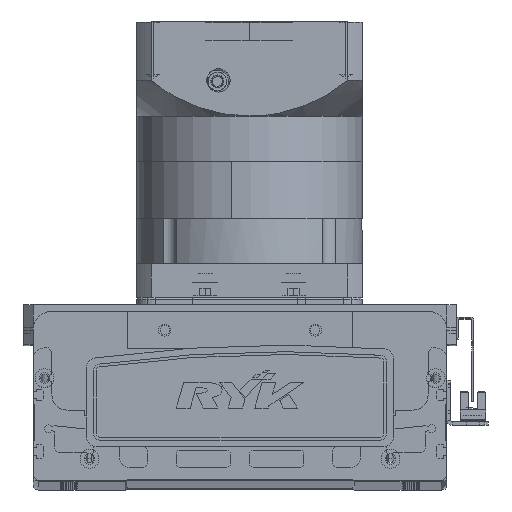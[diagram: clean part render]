
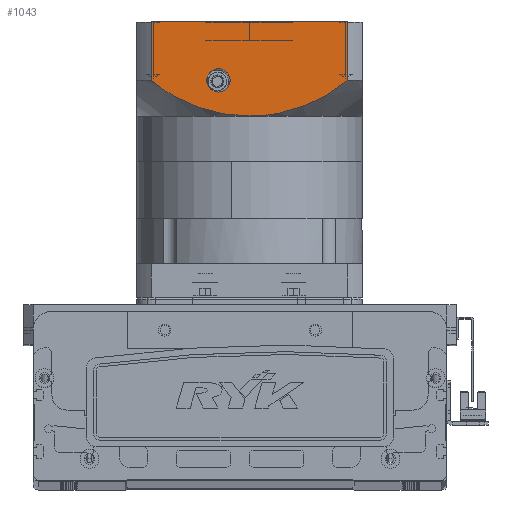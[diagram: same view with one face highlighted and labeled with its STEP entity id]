
A CAD part, top view. The second image highlights one B-rep face of the part: STEP entity #1043.
In plain terms, the highlighted planar face has unit normal (0, 0, 1) as drawn and (0, -1, 0) by its records, which use the part's own axes.
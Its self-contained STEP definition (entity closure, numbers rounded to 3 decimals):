
#1043 = ADVANCED_FACE ( 'NONE', ( #7003, #23155 ), #40336, .T. ) ;
#2722 = ORIENTED_EDGE ( 'NONE', *, *, #65860, .F. ) ;
#3418 = CARTESIAN_POINT ( 'NONE',  ( 16.5, -60., -119.5 ) ) ;
#4253 = VECTOR ( 'NONE', #8185, 1000. ) ;
#4276 = CARTESIAN_POINT ( 'NONE',  ( 25.577, -60., -104.596 ) ) ;
#4496 = CARTESIAN_POINT ( 'NONE',  ( -52.156, -60., -119.5 ) ) ;
#5496 = CARTESIAN_POINT ( 'NONE',  ( -52.156, -60., -150.5 ) ) ;
#5782 = LINE ( 'NONE', #58096, #66221 ) ;
#6041 = EDGE_CURVE ( 'NONE', #45468, #47279, #33328, .T. ) ;
#7003 = FACE_OUTER_BOUND ( 'NONE', #25930, .T. ) ;
#8185 = DIRECTION ( 'NONE',  ( 0., 0., 1. ) ) ;
#9010 = CARTESIAN_POINT ( 'NONE',  ( -35.342, -60., -108.587 ) ) ;
#9262 = CARTESIAN_POINT ( 'NONE',  ( 16.426, -60., -102.169 ) ) ;
#9314 = DIRECTION ( 'NONE',  ( 1., 0., 0. ) ) ;
#9933 = CARTESIAN_POINT ( 'NONE',  ( -36.409, -60., -109.113 ) ) ;
#11689 = ORIENTED_EDGE ( 'NONE', *, *, #6041, .F. ) ;
#14488 = CARTESIAN_POINT ( 'NONE',  ( -23.319, -60., -103.777 ) ) ;
#14639 = CARTESIAN_POINT ( 'NONE',  ( 52.156, -60., -119.5 ) ) ;
#14738 = CARTESIAN_POINT ( 'NONE',  ( 18.739, -60., -102.681 ) ) ;
#15195 = CARTESIAN_POINT ( 'NONE',  ( -52.156, -60., -119.5 ) ) ;
#15440 = CARTESIAN_POINT ( 'NONE',  ( 0., -60., -100.5 ) ) ;
#16301 = CARTESIAN_POINT ( 'NONE',  ( 16.5, -60., -119.5 ) ) ;
#18593 = CARTESIAN_POINT ( 'NONE',  ( -60., -60., -150.5 ) ) ;
#19936 = LINE ( 'NONE', #40792, #51457 ) ;
#19972 = CARTESIAN_POINT ( 'NONE',  ( 4.753, -60., -100.5 ) ) ;
#20448 = CARTESIAN_POINT ( 'NONE',  ( 44.553, -60., -113.817 ) ) ;
#20695 = CARTESIAN_POINT ( 'NONE',  ( 50.338, -60., -117.969 ) ) ;
#21776 = CARTESIAN_POINT ( 'NONE',  ( 16.5, -60., -125.75 ) ) ;
#21792 = DIRECTION ( 'NONE',  ( 0., 1., 0. ) ) ;
#21817 = VERTEX_POINT ( 'NONE', #14639 ) ;
#23155 = FACE_BOUND ( 'NONE', #43802, .T. ) ;
#25930 = EDGE_LOOP ( 'NONE', ( #2722, #44363, #49285, #50106, #11689 ) ) ;
#27208 = VERTEX_POINT ( 'NONE', #49974 ) ;
#28956 = B_SPLINE_CURVE_WITH_KNOTS ( 'NONE', 3,
 ( #46885, #19972, #58038, #41923, #9262, #14738, #59430, #64486, #4276, #37155, #48079, #69705, #37631, #20448, #53311, #42395, #20695, #64715 ),
 .UNSPECIFIED., .F., .F.,
 ( 4, 2, 2, 2, 2, 2, 2, 2, 4 ),
 ( 0., 0.014, 0.018, 0.021, 0.028, 0.042, 0.046, 0.05, 0.057 ),
 .UNSPECIFIED. ) ;
#30747 = CIRCLE ( 'NONE', #53305, 6.25 ) ;
#30957 = CARTESIAN_POINT ( 'NONE',  ( -9.477, -60., -101.046 ) ) ;
#31239 = DIRECTION ( 'NONE',  ( 1., 0., 0. ) ) ;
#31605 = ORIENTED_EDGE ( 'NONE', *, *, #39225, .T. ) ;
#31672 = CARTESIAN_POINT ( 'NONE',  ( -38.51, -60., -110.207 ) ) ;
#33328 = B_SPLINE_CURVE_WITH_KNOTS ( 'NONE', 3,
 ( #4496, #42606, #63749, #53521, #31672, #9933, #9010, #69689, #48055, #14488, #36208, #52584, #53294, #30957, #69448, #68730, #58947, #15440 ),
 .UNSPECIFIED., .F., .F.,
 ( 4, 2, 2, 2, 2, 2, 2, 2, 4 ),
 ( 0., 0.014, 0.018, 0.021, 0.028, 0.042, 0.046, 0.05, 0.057 ),
 .UNSPECIFIED. ) ;
#33483 = DIRECTION ( 'NONE',  ( 0., 0., -1. ) ) ;
#34407 = DIRECTION ( 'NONE',  ( 0., 0., 1. ) ) ;
#36208 = CARTESIAN_POINT ( 'NONE',  ( -18.792, -60., -102.562 ) ) ;
#36961 = DIRECTION ( 'NONE',  ( 0., -1., 0. ) ) ;
#37155 = CARTESIAN_POINT ( 'NONE',  ( 32.196, -60., -107.007 ) ) ;
#37351 = AXIS2_PLACEMENT_3D ( 'NONE', #16301, #21792, #33483 ) ;
#37357 = CARTESIAN_POINT ( 'NONE',  ( 0., -60., -100.5 ) ) ;
#37631 = CARTESIAN_POINT ( 'NONE',  ( 42.555, -60., -112.543 ) ) ;
#38027 = VERTEX_POINT ( 'NONE', #5496 ) ;
#39225 = EDGE_CURVE ( 'NONE', #55973, #27208, #61313, .T. ) ;
#40336 = PLANE ( 'NONE',  #69539 ) ;
#40792 = CARTESIAN_POINT ( 'NONE',  ( -52.156, -60., -97.5 ) ) ;
#41717 = EDGE_CURVE ( 'NONE', #38027, #46732, #5782, .T. ) ;
#41923 = CARTESIAN_POINT ( 'NONE',  ( 15.267, -60., -101.938 ) ) ;
#42395 = CARTESIAN_POINT ( 'NONE',  ( 48.457, -60., -116.522 ) ) ;
#42606 = CARTESIAN_POINT ( 'NONE',  ( -48.52, -60., -116.438 ) ) ;
#43802 = EDGE_LOOP ( 'NONE', ( #31605, #49633 ) ) ;
#44363 = ORIENTED_EDGE ( 'NONE', *, *, #41717, .T. ) ;
#45468 = VERTEX_POINT ( 'NONE', #15195 ) ;
#46732 = VERTEX_POINT ( 'NONE', #68420 ) ;
#46885 = CARTESIAN_POINT ( 'NONE',  ( 0., -60., -100.5 ) ) ;
#47279 = VERTEX_POINT ( 'NONE', #37357 ) ;
#48055 = CARTESIAN_POINT ( 'NONE',  ( -29.939, -60., -106.183 ) ) ;
#48079 = CARTESIAN_POINT ( 'NONE',  ( 36.444, -60., -108.986 ) ) ;
#49285 = ORIENTED_EDGE ( 'NONE', *, *, #68663, .T. ) ;
#49633 = ORIENTED_EDGE ( 'NONE', *, *, #60604, .T. ) ;
#49974 = CARTESIAN_POINT ( 'NONE',  ( 16.5, -60., -113.25 ) ) ;
#50106 = ORIENTED_EDGE ( 'NONE', *, *, #55440, .F. ) ;
#50219 = LINE ( 'NONE', #51290, #4253 ) ;
#51290 = CARTESIAN_POINT ( 'NONE',  ( 52.156, -60., -150.5 ) ) ;
#51457 = VECTOR ( 'NONE', #34407, 1000. ) ;
#52584 = CARTESIAN_POINT ( 'NONE',  ( -12.993, -60., -101.537 ) ) ;
#53294 = CARTESIAN_POINT ( 'NONE',  ( -11.825, -60., -101.356 ) ) ;
#53305 = AXIS2_PLACEMENT_3D ( 'NONE', #3418, #68144, #68611 ) ;
#53311 = CARTESIAN_POINT ( 'NONE',  ( 45.542, -60., -114.478 ) ) ;
#53521 = CARTESIAN_POINT ( 'NONE',  ( -39.546, -60., -110.776 ) ) ;
#55440 = EDGE_CURVE ( 'NONE', #47279, #21817, #28956, .T. ) ;
#55973 = VERTEX_POINT ( 'NONE', #21776 ) ;
#58038 = CARTESIAN_POINT ( 'NONE',  ( 9.454, -60., -100.914 ) ) ;
#58096 = CARTESIAN_POINT ( 'NONE',  ( -60., -60., -150.5 ) ) ;
#58947 = CARTESIAN_POINT ( 'NONE',  ( -2.376, -60., -100.5 ) ) ;
#59430 = CARTESIAN_POINT ( 'NONE',  ( 19.894, -60., -102.964 ) ) ;
#60604 = EDGE_CURVE ( 'NONE', #27208, #55973, #30747, .T. ) ;
#61313 = CIRCLE ( 'NONE', #37351, 6.25 ) ;
#63749 = CARTESIAN_POINT ( 'NONE',  ( -44.656, -60., -113.73 ) ) ;
#64486 = CARTESIAN_POINT ( 'NONE',  ( 23.329, -60., -103.886 ) ) ;
#64715 = CARTESIAN_POINT ( 'NONE',  ( 52.156, -60., -119.5 ) ) ;
#65860 = EDGE_CURVE ( 'NONE', #38027, #45468, #19936, .T. ) ;
#66221 = VECTOR ( 'NONE', #9314, 1000. ) ;
#68144 = DIRECTION ( 'NONE',  ( 0., 1., 0. ) ) ;
#68420 = CARTESIAN_POINT ( 'NONE',  ( 52.156, -60., -150.5 ) ) ;
#68611 = DIRECTION ( 'NONE',  ( 0., 0., -1. ) ) ;
#68663 = EDGE_CURVE ( 'NONE', #46732, #21817, #50219, .T. ) ;
#68730 = CARTESIAN_POINT ( 'NONE',  ( -4.747, -60., -100.604 ) ) ;
#69448 = CARTESIAN_POINT ( 'NONE',  ( -8.294, -60., -100.916 ) ) ;
#69539 = AXIS2_PLACEMENT_3D ( 'NONE', #18593, #36961, #31239 ) ;
#69689 = CARTESIAN_POINT ( 'NONE',  ( -32.118, -60., -107.084 ) ) ;
#69705 = CARTESIAN_POINT ( 'NONE',  ( 41.545, -60., -111.931 ) ) ;
